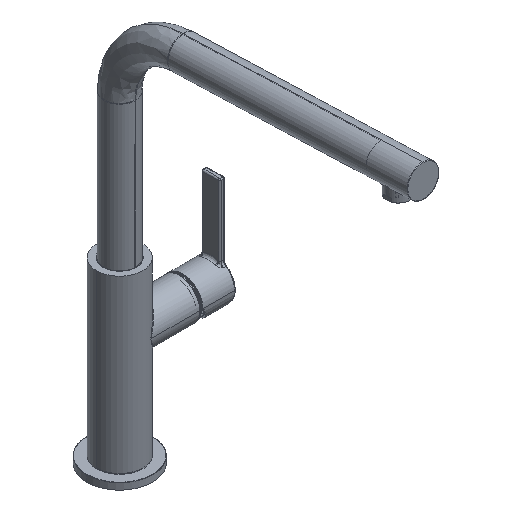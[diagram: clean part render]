
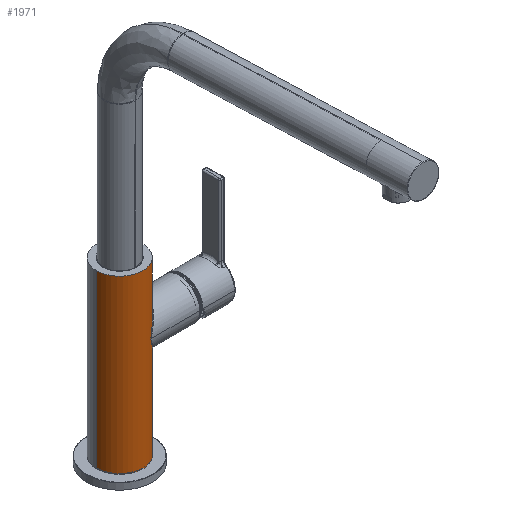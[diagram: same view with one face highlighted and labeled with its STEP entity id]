
A CAD part, isometric view. The second image highlights one B-rep face of the part: STEP entity #1971.
In plain terms, the highlighted cylindrical face has radius 17.5 mm (diameter 35 mm), a partial arc.
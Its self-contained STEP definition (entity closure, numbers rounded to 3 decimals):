
#1971=ADVANCED_FACE('',(#4345),#33768,.T.);
#4345=FACE_OUTER_BOUND('',#6749,.T.);
#6749=EDGE_LOOP('',(#14966,#14967,#14968,#14969,#14970,#14971,#14972));
#14966=ORIENTED_EDGE('',*,*,#21834,.F.);
#14967=ORIENTED_EDGE('',*,*,#21826,.F.);
#14968=ORIENTED_EDGE('',*,*,#21837,.T.);
#14969=ORIENTED_EDGE('',*,*,#21831,.F.);
#14970=ORIENTED_EDGE('',*,*,#21836,.T.);
#14971=ORIENTED_EDGE('',*,*,#21835,.T.);
#14972=ORIENTED_EDGE('',*,*,#21830,.F.);
#21826=EDGE_CURVE('',#31494,#31492,#27545,.T.);
#21830=EDGE_CURVE('',#31493,#31498,#27548,.T.);
#21831=EDGE_CURVE('',#31496,#31495,#27549,.T.);
#21834=EDGE_CURVE('',#31492,#31493,#23571,.T.);
#21835=EDGE_CURVE('',#31503,#31498,#27552,.T.);
#21836=EDGE_CURVE('',#31496,#31503,#27553,.T.);
#21837=EDGE_CURVE('',#31494,#31495,#23572,.T.);
#23571=TRIMMED_CURVE($,#24236,(#72329),(#72330),.T.,.CARTESIAN.);
#23572=TRIMMED_CURVE($,#24237,(#72362),(#72363),.T.,.CARTESIAN.);
#24236=CIRCLE('',#37181,17.5);
#24237=CIRCLE('',#37182,17.5);
#27545=B_SPLINE_CURVE_WITH_KNOTS('',1,(#72259,#72260),.UNSPECIFIED.,.F.,
 .F.,(2,2),(-130.,0.),.UNSPECIFIED.);
#27548=B_SPLINE_CURVE_WITH_KNOTS('',1,(#72294,#72295),.UNSPECIFIED.,.F.,
 .F.,(2,2),(-33.25,0.),.UNSPECIFIED.);
#27549=B_SPLINE_CURVE_WITH_KNOTS('',1,(#72296,#72297),.UNSPECIFIED.,.F.,
 .F.,(2,2),(0.,63.25),.UNSPECIFIED.);
#27552=B_SPLINE_CURVE_WITH_KNOTS('',3,(#72331,#72332,#72333,#72334,#72335,
#72336,#72337,#72338,#72339,#72340,#72341,#72342,#72343,#72344,#72345),
 .UNSPECIFIED.,.F.,.F.,(4,1,1,1,1,1,1,1,1,1,1,1,4),(-27.32,-25.043,
-22.766,-20.49,-18.213,-15.936,
-13.66,-11.383,-9.107,-6.83,
-4.553,-2.277,0.),.UNSPECIFIED.);
#27553=B_SPLINE_CURVE_WITH_KNOTS('',3,(#72346,#72347,#72348,#72349,#72350,
#72351,#72352,#72353,#72354,#72355,#72356,#72357,#72358,#72359,#72360),
 .UNSPECIFIED.,.F.,.F.,(4,1,1,1,1,1,1,1,1,1,1,1,4),(-27.32,-25.043,
-22.766,-20.49,-18.213,-15.937,
-13.66,-11.383,-9.107,-6.83,
-4.553,-2.277,0.),.UNSPECIFIED.);
#31492=VERTEX_POINT('',#72210);
#31493=VERTEX_POINT('',#72211);
#31494=VERTEX_POINT('',#72212);
#31495=VERTEX_POINT('',#72213);
#31496=VERTEX_POINT('',#72214);
#31498=VERTEX_POINT('',#72216);
#31503=VERTEX_POINT('',#72221);
#33768=CYLINDRICAL_SURFACE('',#37164,17.5);
#37164=AXIS2_PLACEMENT_3D('',#71603,#39553,$);
#37181=AXIS2_PLACEMENT_3D($,#72328,#39572,#39573);
#37182=AXIS2_PLACEMENT_3D($,#72361,#39574,#39575);
#39553=DIRECTION('',(0.,0.,1.));
#39572=DIRECTION('',(0.,0.,1.));
#39573=DIRECTION('',(-1.,0.,0.));
#39574=DIRECTION('',(0.,0.,1.));
#39575=DIRECTION('',(-1.,0.,0.));
#71603=CARTESIAN_POINT('',(0.,0.,65.2));
#72210=CARTESIAN_POINT('',(-17.5,0.,130.2));
#72211=CARTESIAN_POINT('',(17.5,0.,130.2));
#72212=CARTESIAN_POINT('',(-17.5,0.,0.2));
#72213=CARTESIAN_POINT('',(17.5,0.,0.2));
#72214=CARTESIAN_POINT('',(17.5,0.,63.45));
#72216=CARTESIAN_POINT('',(17.5,0.,96.95));
#72221=CARTESIAN_POINT('',(8.261,-15.428,80.2));
#72259=CARTESIAN_POINT('',(-17.5,0.,0.2));
#72260=CARTESIAN_POINT('',(-17.5,0.,130.2));
#72294=CARTESIAN_POINT('',(17.5,0.,130.2));
#72295=CARTESIAN_POINT('',(17.5,0.,96.95));
#72296=CARTESIAN_POINT('',(17.5,0.,63.45));
#72297=CARTESIAN_POINT('',(17.5,0.,0.2));
#72328=CARTESIAN_POINT('',(0.,0.,130.2));
#72329=CARTESIAN_POINT('',(-17.5,0.,130.2));
#72330=CARTESIAN_POINT('',(17.5,0.,130.2));
#72331=CARTESIAN_POINT('',(8.261,-15.428,80.2));
#72332=CARTESIAN_POINT('',(8.261,-15.428,80.711));
#72333=CARTESIAN_POINT('',(8.341,-15.385,81.78));
#72334=CARTESIAN_POINT('',(8.77,-15.149,83.551));
#72335=CARTESIAN_POINT('',(9.518,-14.697,85.419));
#72336=CARTESIAN_POINT('',(10.51,-14.014,87.307));
#72337=CARTESIAN_POINT('',(11.707,-13.046,89.244));
#72338=CARTESIAN_POINT('',(13.119,-11.652,91.289));
#72339=CARTESIAN_POINT('',(14.57,-9.793,93.244));
#72340=CARTESIAN_POINT('',(15.763,-7.721,94.781));
#72341=CARTESIAN_POINT('',(16.627,-5.605,95.868));
#72342=CARTESIAN_POINT('',(17.17,-3.572,96.543));
#72343=CARTESIAN_POINT('',(17.449,-1.691,96.888));
#72344=CARTESIAN_POINT('',(17.5,-0.543,96.95));
#72345=CARTESIAN_POINT('',(17.5,0.,96.95));
#72346=CARTESIAN_POINT('',(17.5,0.,63.45));
#72347=CARTESIAN_POINT('',(17.5,-0.554,63.45));
#72348=CARTESIAN_POINT('',(17.447,-1.725,63.515));
#72349=CARTESIAN_POINT('',(17.157,-3.64,63.873));
#72350=CARTESIAN_POINT('',(16.593,-5.71,64.574));
#72351=CARTESIAN_POINT('',(15.695,-7.861,65.705));
#72352=CARTESIAN_POINT('',(14.476,-9.931,67.28));
#72353=CARTESIAN_POINT('',(13.024,-11.756,69.243));
#72354=CARTESIAN_POINT('',(11.641,-13.103,71.259));
#72355=CARTESIAN_POINT('',(10.465,-14.047,73.172));
#72356=CARTESIAN_POINT('',(9.491,-14.715,75.041));
#72357=CARTESIAN_POINT('',(8.759,-15.155,76.889));
#72358=CARTESIAN_POINT('',(8.339,-15.386,78.638));
#72359=CARTESIAN_POINT('',(8.261,-15.428,79.695));
#72360=CARTESIAN_POINT('',(8.261,-15.428,80.2));
#72361=CARTESIAN_POINT('',(0.,0.,0.2));
#72362=CARTESIAN_POINT('',(-17.5,0.,0.2));
#72363=CARTESIAN_POINT('',(17.5,0.,0.2));
